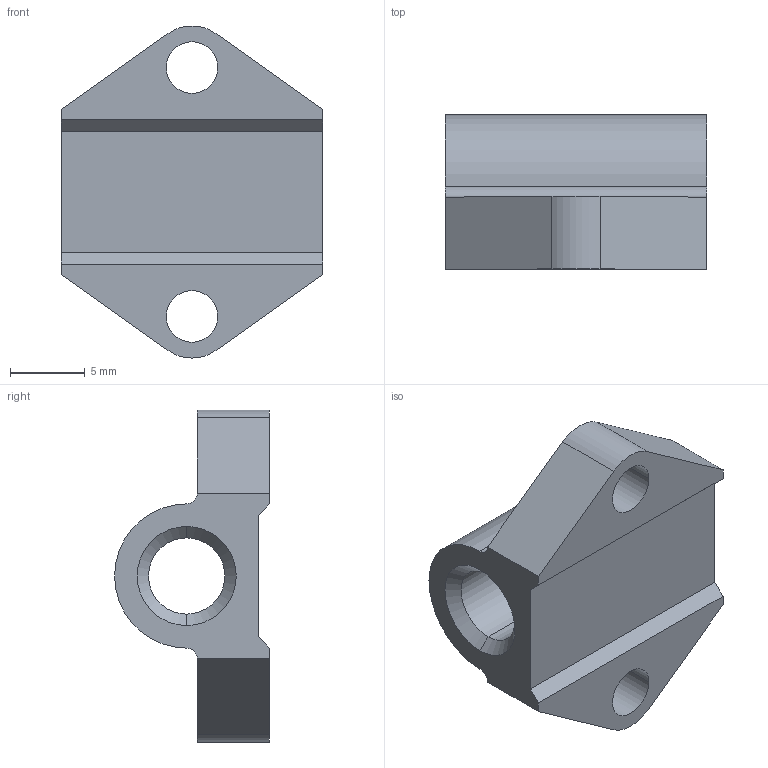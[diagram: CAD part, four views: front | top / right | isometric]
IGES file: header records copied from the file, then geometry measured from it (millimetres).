
Start section:  PTC IGES file: tf25-3d.igs
Global section: file name: tf25-3d.igs; native system: Pro/ENGINEER by Parametric Technology Corporation; preprocessor: 2002350; author: chant; organization: Unknown; date: 061026.151220; units: inch
Bounding box: 17.48 x 10.36 x 22.23 mm (x, y, z)
Surface area: 1398.9 mm2 (no closed solid volume)
Topology: 0 solids, 0 shells, 28 faces, 202 edges, 256 vertices
Faces by surface type: revolution 15, bspline 13
